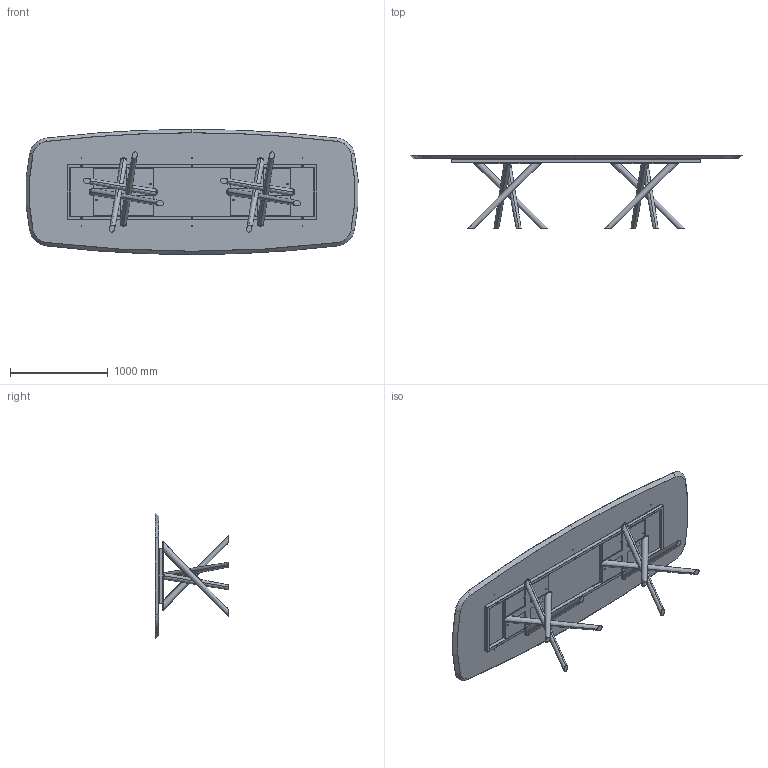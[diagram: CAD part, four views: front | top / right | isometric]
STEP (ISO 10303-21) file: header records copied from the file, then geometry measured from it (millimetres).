
FILE_DESCRIPTION (( 'STEP AP203' ), '1' );
FILE_NAME ('BA48W.STEP', '2024-08-08T05:56:35', ( '' ), ( '' ), 'SwSTEP 2.0', 'SolidWorks 2022', '' );
FILE_SCHEMA (( 'CONFIG_CONTROL_DESIGN' ));
Length unit declared in the file: millimetre
Products named in the file (10): TTAV03_01-06-RING TUBO TELAIO UNIVERSALE X TAVOLI 300-340cm; Parte5^BAB000000-00-BALY BASE GREZZA; BAB000000_02-00-basamento pali conificati; W4XCMXX-00-Piani Sagomati legno_3400 x 1280; TTAV03_02-06-VASSOIO IRRIGIDIMENTO TELAIO UNIVERSALE RETTANGOLARE; BAB000000_01-00-Croce Superiore baly; BA48W; BAB000000-00-BALY BASE GREZZA; TTAV03-06-TELAIO UNIVERSALE X TAVOLI 300-340cm; K2XCMXX-00-Piani Rettangolari in ceramica_2000 x 1060
Assembly tree (11 placements, depth 3):
  BA48W
    W4XCMXX-00-Piani Sagomati legno_3400 x 1280
    K2XCMXX-00-Piani Rettangolari in ceramica_2000 x 1060
    TTAV03-06-TELAIO UNIVERSALE X TAVOLI 300-340cm
      TTAV03_01-06-RING TUBO TELAIO UNIVERSALE X TAVOLI 300-340cm
      TTAV03_02-06-VASSOIO IRRIGIDIMENTO TELAIO UNIVERSALE RETTANGOLARE  x2
    BAB000000-00-BALY BASE GREZZA  x2
      BAB000000_01-00-Croce Superiore baly
      BAB000000_02-00-basamento pali conificati
      Parte5^BAB000000-00-BALY BASE GREZZA
Bounding box: 3390.78 x 753 x 1280 mm (x, y, z)
Volume: 190747544.7 mm3; surface area: 23138376.2 mm2
Topology: 24 solids, 24 shells, 651 faces, 1594 edges, 973 vertices
Faces by surface type: plane 286, cylinder 235, cone 97, bspline 16, torus 9, sphere 8
Entity records: 15231 total; most frequent: CARTESIAN_POINT 3876, DIRECTION 2181, ORIENTED_EDGE 2074, EDGE_CURVE 1037, AXIS2_PLACEMENT_3D 784, VERTEX_POINT 647, LINE 613, VECTOR 613
